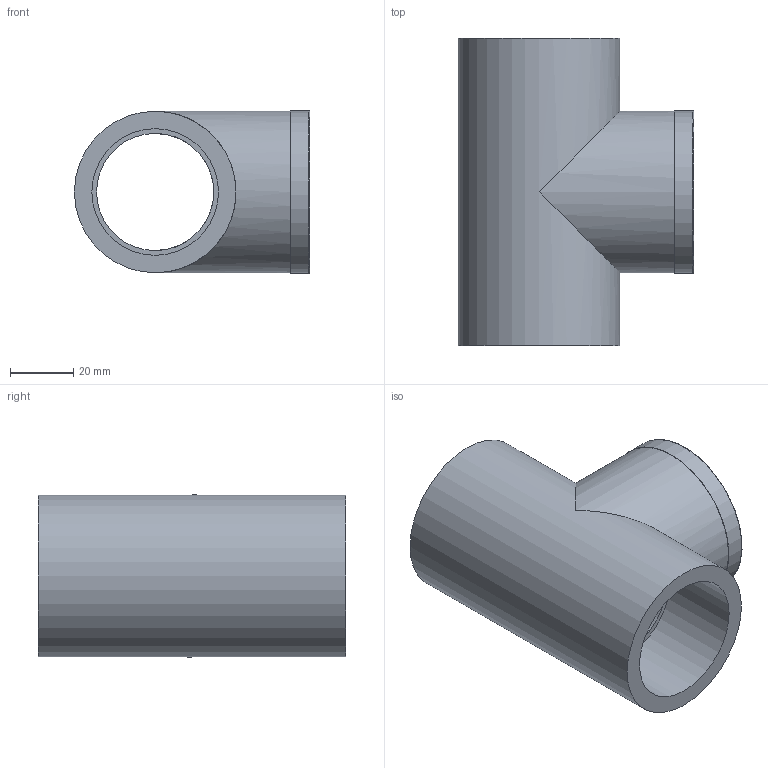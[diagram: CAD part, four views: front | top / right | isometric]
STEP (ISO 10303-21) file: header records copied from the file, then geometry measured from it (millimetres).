
FILE_DESCRIPTION(/* description */ (''),/* implementation_level */ '2;1');
FILE_NAME(/* name */ 'C:\Users\POLYPIPE\Desktop\DATASET INVENTOR\LIBRERIA EFFAST\RACCORDI 3DxWEB\RGR\3D_RGRTIR\3D_RGRTIR040E.stp',/* time_stamp */ '2018-01-19T17:56:40+01:00',/* author */ ('POLYPIPE'),/* organization */ (''),/* preprocessor_version */ 'ST-DEVELOPER v16.1',/* originating_system */ 'Autodesk Inventor 2016',/* authorisation */ '');
FILE_SCHEMA (('CONFIG_CONTROL_DESIGN'));
Length unit declared in the file: centimetre
Products named in the file (1): 3D_RGRTIR040E
Bounding box: 74.25 x 97 x 51.26 mm (x, y, z)
Volume: 99892.9 mm3; surface area: 37756.2 mm2
Topology: 1 solids, 1 shells, 24 faces, 48 edges, 32 vertices
Faces by surface type: cylinder 9, plane 9, bspline 5, torus 1
Full cylindrical faces by diameter (mm): 37 x2, 38.952 x1, 40 x2, 45 x1, 51 x2, 51.3 x1
Entity records: 3989 total; most frequent: CARTESIAN_POINT 3476, DIRECTION 89, ORIENTED_EDGE 74, EDGE_LOOP 43, AXIS2_PLACEMENT_3D 43, EDGE_CURVE 37, VERTEX_POINT 30, STYLED_ITEM 25
